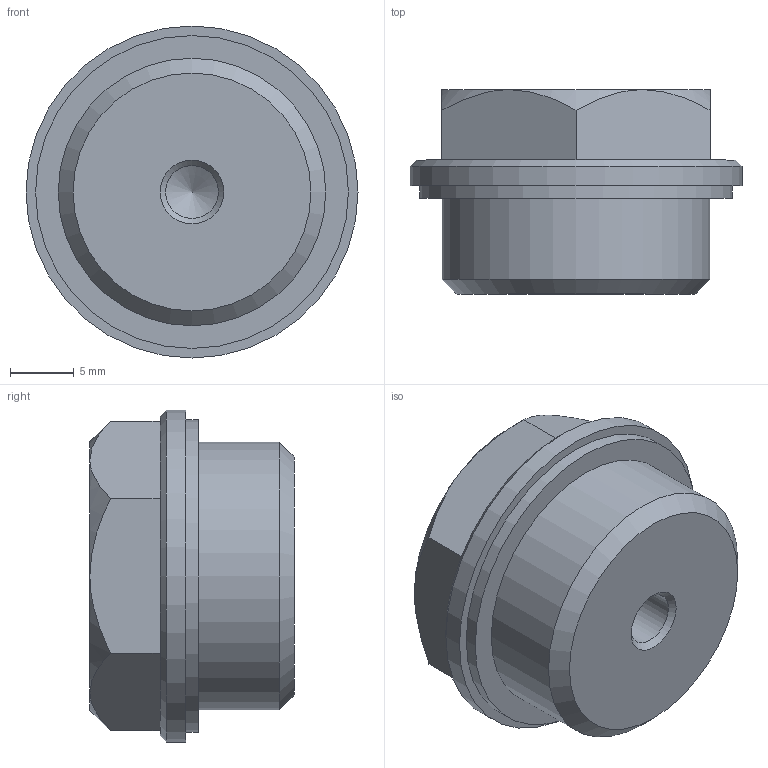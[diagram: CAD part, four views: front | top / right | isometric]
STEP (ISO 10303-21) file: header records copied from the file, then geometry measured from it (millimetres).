
FILE_DESCRIPTION( ( 'STEP AP203' ), '1' );
FILE_NAME( 'C:/Temp/Ganter_Step_05_03_2020/data/3_5/gn742/gn742_1/Threaded plug GN 742-26-G1_2-ES-1.stp', '2020-03-12T13:39:03', ( 'License CC BY-ND 4.0' ), ( 'CADENAS' ), ' ', 'PARTsolutions', ' ' );
FILE_SCHEMA( ( 'CONFIG_CONTROL_DESIGN' ) );
Length unit declared in the file: millimetre
Products named in the file (1): _Threaded plug GN 742-26-G1/2-ES-1
Bounding box: 26 x 16 x 26 mm (x, y, z)
Volume: 5974.5 mm3; surface area: 2262.7 mm2
Topology: 1 solids, 1 shells, 52 faces, 125 edges, 80 vertices
Faces by surface type: plane 38, cone 10, cylinder 4
Full cylindrical faces by diameter (mm): 4.134 x1, 20.955 x1, 24.5 x1, 26 x1
Entity records: 1545 total; most frequent: CARTESIAN_POINT 333, ORIENTED_EDGE 232, DIRECTION 227, EDGE_CURVE 116, LINE 87, VECTOR 87, VERTEX_POINT 80, AXIS2_PLACEMENT_3D 70
